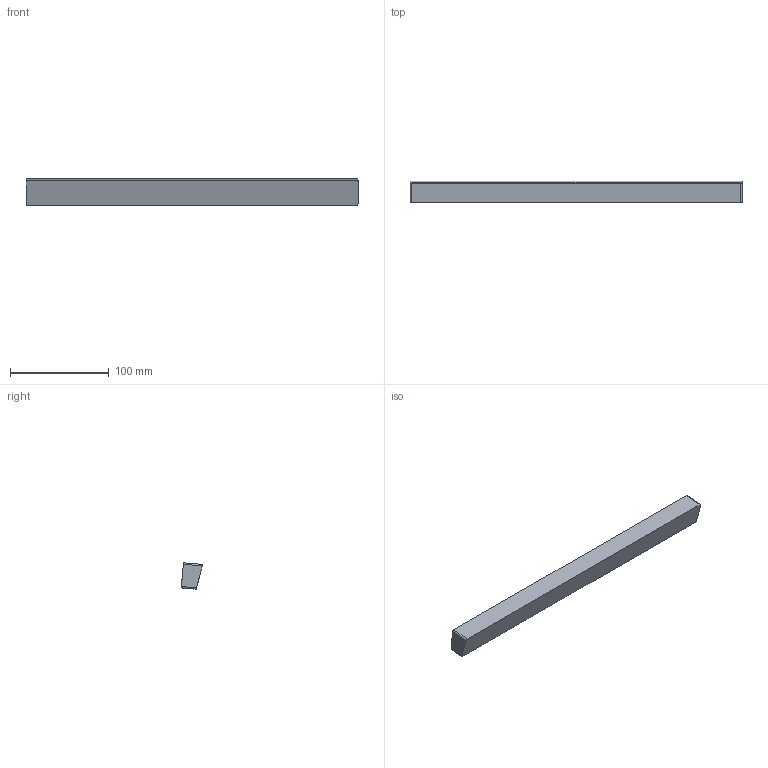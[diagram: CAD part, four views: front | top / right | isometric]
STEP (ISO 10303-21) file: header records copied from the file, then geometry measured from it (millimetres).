
FILE_DESCRIPTION(/* description */ (''),/* implementation_level */ '2;1');
FILE_NAME(/* name */ 'HOLDER.step',/* time_stamp */ '2025-12-16T12:00:16+09:00',/* author */ (''),/* organization */ (''),/* preprocessor_version */ 'ST-DEVELOPER v20.1',/* originating_system */ 'Autodesk Translation Framework v14.21.0.0',/* authorisation */ '');
FILE_SCHEMA (('AUTOMOTIVE_DESIGN { 1 0 10303 214 3 1 1 }'));
Length unit declared in the file: millimetre
Products named in the file (1): HOLDER
Bounding box: 336 x 21.75 x 26.84 mm (x, y, z)
Volume: 50591.9 mm3; surface area: 40136.3 mm2
Topology: 1 solids, 1 shells, 35 faces, 92 edges, 60 vertices
Faces by surface type: plane 31, cylinder 4
Entity records: 1095 total; most frequent: CARTESIAN_POINT 188, ORIENTED_EDGE 184, DIRECTION 172, EDGE_CURVE 92, LINE 84, VECTOR 84, VERTEX_POINT 60, AXIS2_PLACEMENT_3D 44
